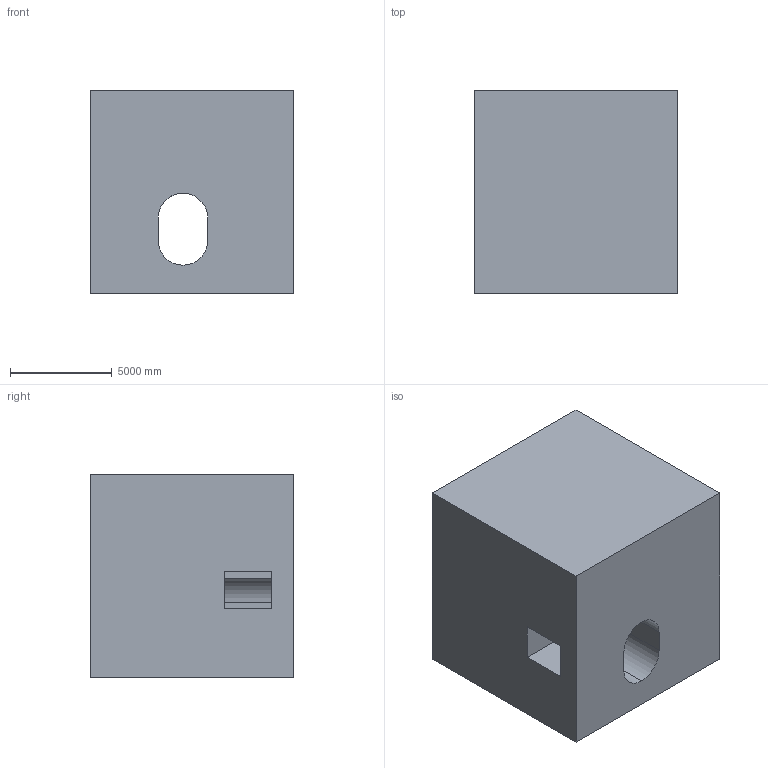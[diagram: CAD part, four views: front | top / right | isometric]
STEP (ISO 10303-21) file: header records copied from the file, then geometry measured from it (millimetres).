
FILE_DESCRIPTION (( 'STEP AP203' ), '1' );
FILE_NAME ('162.STEP', '2022-07-28T13:46:47', ( 'user' ), ( '' ), 'SwSTEP 2.0', 'SolidWorks 2021', '' );
FILE_SCHEMA (( 'CONFIG_CONTROL_DESIGN' ));
Length unit declared in the file: centimetre
Products named in the file (1): 162
Bounding box: 10000 x 10000 x 10000 mm (x, y, z)
Volume: 910222411287.3 mm3; surface area: 707457688.7 mm2
Topology: 1 solids, 1 shells, 16 faces, 45 edges, 30 vertices
Faces by surface type: plane 13, cylinder 3
Entity records: 602 total; most frequent: CARTESIAN_POINT 92, ORIENTED_EDGE 90, DIRECTION 87, EDGE_CURVE 45, LINE 37, VECTOR 37, VERTEX_POINT 30, AXIS2_PLACEMENT_3D 25
